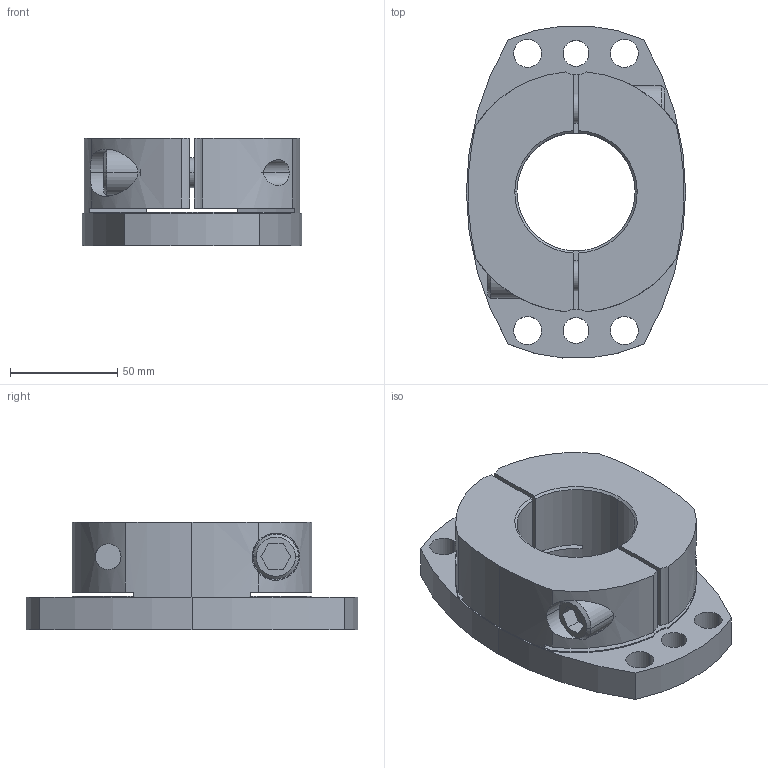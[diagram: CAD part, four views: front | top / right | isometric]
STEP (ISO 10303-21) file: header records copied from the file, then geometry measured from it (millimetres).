
FILE_DESCRIPTION((''),'2;1');
FILE_NAME('SHDB-155B-55.stp','2026-01-28T09:01:46',(''),(''),'AutoCAD STEP 2000i','AutoCAD 2000i',', , ');
FILE_SCHEMA(('CONFIG_CONTROL_DESIGN'));
Length unit declared in the file: millimetre
Products named in the file (2): SHDB-155B-45; 忣兜1
Assembly tree (1 placements, depth 2):
  SHDB-155B-45
    忣兜1
Bounding box: 102 x 154.46 x 50 mm (x, y, z)
Volume: 376767.6 mm3; surface area: 68051.4 mm2
Topology: 1 solids, 1 shells, 102 faces, 274 edges, 180 vertices
Faces by surface type: cylinder 58, plane 34, cone 10
Entity records: 3673 total; most frequent: CARTESIAN_POINT 874, DIRECTION 600, ORIENTED_EDGE 548, EDGE_CURVE 274, AXIS2_PLACEMENT_3D 238, VERTEX_POINT 180, CIRCLE 134, EDGE_LOOP 126
